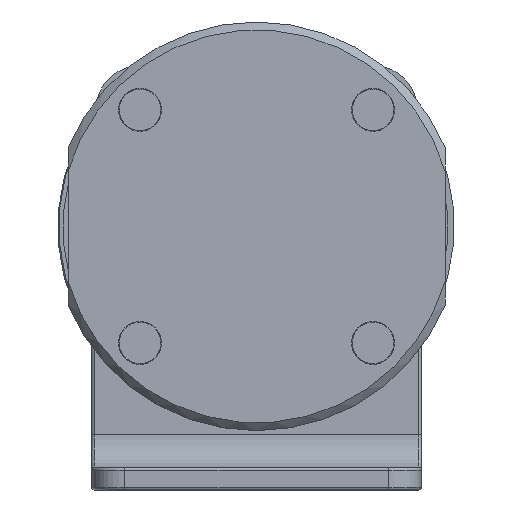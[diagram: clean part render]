
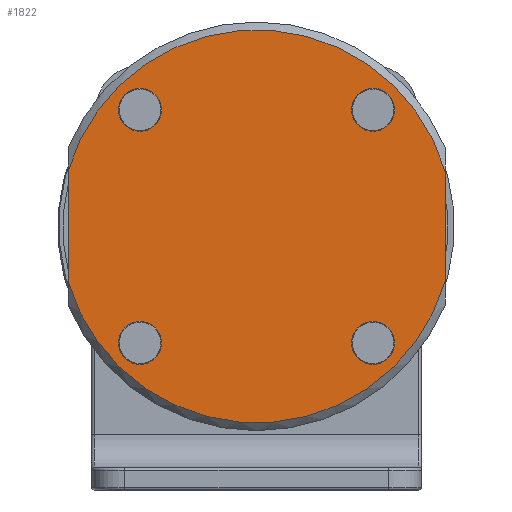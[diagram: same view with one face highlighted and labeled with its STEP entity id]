
A CAD part, front view. The second image highlights one B-rep face of the part: STEP entity #1822.
In plain terms, the highlighted planar face has unit normal (0, -1, 0).
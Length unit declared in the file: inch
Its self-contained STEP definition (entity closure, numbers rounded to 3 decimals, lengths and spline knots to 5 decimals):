
#115=LINE('',#3064,#179);
#119=LINE('',#3110,#183);
#179=VECTOR('',#2387,0.3937);
#183=VECTOR('',#2425,0.3937);
#259=PLANE('',#2113);
#305=FACE_BOUND('',#604,.T.);
#306=FACE_BOUND('',#605,.T.);
#307=FACE_BOUND('',#606,.T.);
#308=FACE_BOUND('',#607,.T.);
#455=FACE_OUTER_BOUND('',#603,.T.);
#603=EDGE_LOOP('',(#1403,#1404,#1405,#1406));
#604=EDGE_LOOP('',(#1407));
#605=EDGE_LOOP('',(#1408));
#606=EDGE_LOOP('',(#1409));
#607=EDGE_LOOP('',(#1410));
#795=CIRCLE('',#2086,0.745);
#797=CIRCLE('',#2091,0.0815);
#798=CIRCLE('',#2093,0.0815);
#799=CIRCLE('',#2095,0.0815);
#800=CIRCLE('',#2097,0.0815);
#807=CIRCLE('',#2111,0.745);
#938=VERTEX_POINT('',#3042);
#944=VERTEX_POINT('',#3060);
#954=VERTEX_POINT('',#3094);
#957=VERTEX_POINT('',#3105);
#958=VERTEX_POINT('',#3112);
#959=VERTEX_POINT('',#3115);
#960=VERTEX_POINT('',#3118);
#961=VERTEX_POINT('',#3121);
#1109=EDGE_CURVE('',#938,#944,#115,.T.);
#1122=EDGE_CURVE('',#938,#954,#795,.T.);
#1128=EDGE_CURVE('',#957,#954,#119,.T.);
#1129=EDGE_CURVE('',#958,#958,#797,.T.);
#1130=EDGE_CURVE('',#959,#959,#798,.T.);
#1131=EDGE_CURVE('',#960,#960,#799,.T.);
#1132=EDGE_CURVE('',#961,#961,#800,.T.);
#1139=EDGE_CURVE('',#957,#944,#807,.T.);
#1403=ORIENTED_EDGE('',*,*,#1109,.T.);
#1404=ORIENTED_EDGE('',*,*,#1139,.F.);
#1405=ORIENTED_EDGE('',*,*,#1128,.T.);
#1406=ORIENTED_EDGE('',*,*,#1122,.F.);
#1407=ORIENTED_EDGE('',*,*,#1129,.T.);
#1408=ORIENTED_EDGE('',*,*,#1130,.T.);
#1409=ORIENTED_EDGE('',*,*,#1131,.T.);
#1410=ORIENTED_EDGE('',*,*,#1132,.T.);
#1822=ADVANCED_FACE('',(#455,#305,#306,#307,#308),#259,.T.);
#2086=AXIS2_PLACEMENT_3D('',#3095,#2415,#2416);
#2091=AXIS2_PLACEMENT_3D('',#3113,#2428,#2429);
#2093=AXIS2_PLACEMENT_3D('',#3116,#2432,#2433);
#2095=AXIS2_PLACEMENT_3D('',#3119,#2436,#2437);
#2097=AXIS2_PLACEMENT_3D('',#3122,#2440,#2441);
#2111=AXIS2_PLACEMENT_3D('',#3141,#2468,#2469);
#2113=AXIS2_PLACEMENT_3D('',#3143,#2472,#2473);
#2387=DIRECTION('',(0.,0.,1.));
#2415=DIRECTION('center_axis',(0.,1.,0.));
#2416=DIRECTION('ref_axis',(1.,0.,0.));
#2425=DIRECTION('',(0.,0.,-1.));
#2428=DIRECTION('center_axis',(0.,1.,0.));
#2429=DIRECTION('ref_axis',(1.,0.,0.));
#2432=DIRECTION('center_axis',(0.,1.,0.));
#2433=DIRECTION('ref_axis',(1.,0.,0.));
#2436=DIRECTION('center_axis',(0.,1.,0.));
#2437=DIRECTION('ref_axis',(1.,0.,0.));
#2440=DIRECTION('center_axis',(0.,1.,0.));
#2441=DIRECTION('ref_axis',(1.,0.,0.));
#2468=DIRECTION('center_axis',(0.,1.,0.));
#2469=DIRECTION('ref_axis',(1.,0.,0.));
#2472=DIRECTION('center_axis',(0.,-1.,0.));
#2473=DIRECTION('ref_axis',(0.,0.,-1.));
#3042=CARTESIAN_POINT('',(0.715,-0.25,-0.20928));
#3060=CARTESIAN_POINT('',(0.715,-0.25,0.20928));
#3064=CARTESIAN_POINT('',(0.715,-0.25,0.));
#3094=CARTESIAN_POINT('',(-0.715,-0.25,-0.20928));
#3095=CARTESIAN_POINT('Origin',(0.,-0.25,0.));
#3105=CARTESIAN_POINT('',(-0.715,-0.25,0.20928));
#3110=CARTESIAN_POINT('',(-0.715,-0.25,0.));
#3112=CARTESIAN_POINT('',(0.36044,-0.25,-0.44194));
#3113=CARTESIAN_POINT('Origin',(0.44194,-0.25,-0.44194));
#3115=CARTESIAN_POINT('',(0.36044,-0.25,0.44194));
#3116=CARTESIAN_POINT('Origin',(0.44194,-0.25,0.44194));
#3118=CARTESIAN_POINT('',(-0.52344,-0.25,-0.44194));
#3119=CARTESIAN_POINT('Origin',(-0.44194,-0.25,-0.44194));
#3121=CARTESIAN_POINT('',(-0.52344,-0.25,0.44194));
#3122=CARTESIAN_POINT('Origin',(-0.44194,-0.25,0.44194));
#3141=CARTESIAN_POINT('Origin',(0.,-0.25,0.));
#3143=CARTESIAN_POINT('Origin',(0.,-0.25,0.));
